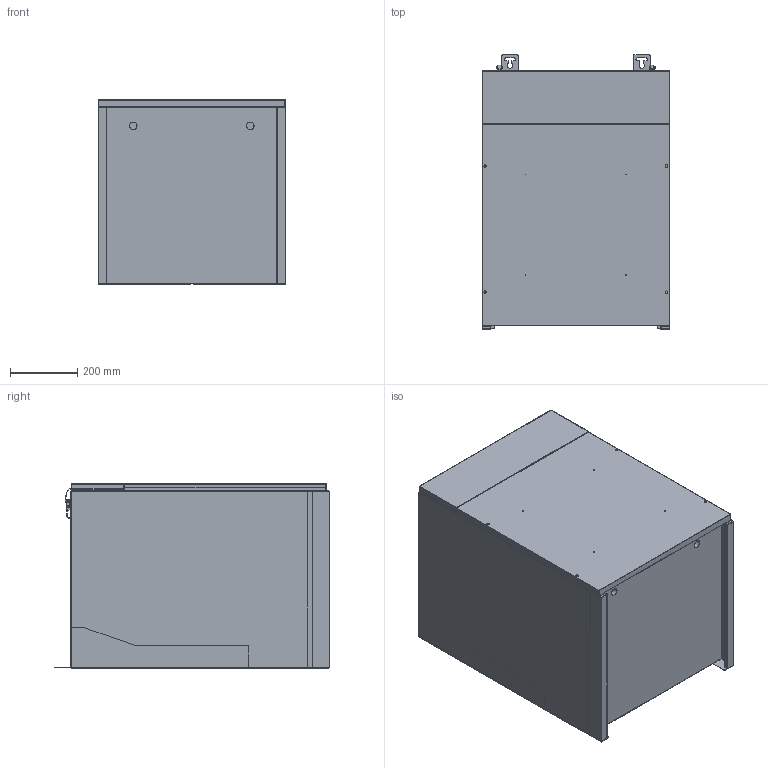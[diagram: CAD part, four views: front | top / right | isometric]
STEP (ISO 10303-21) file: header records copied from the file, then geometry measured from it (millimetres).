
FILE_DESCRIPTION (( 'STEP AP214' ), '1' );
FILE_NAME ('Comfort_350_Stp.STEP', '2022-02-08T08:25:52', ( '' ), ( '' ), 'SwSTEP 2.0', 'SolidWorks 2021', '' );
FILE_SCHEMA (( 'AUTOMOTIVE_DESIGN' ));
Length unit declared in the file: millimetre
Products named in the file (25): 2847_spaendebeslag.STEP; Comfort_250.STEP; 2.08.00.00.3.STEP; Frontplade_GB_Marketing.STEP; 2.08.00.00.4.STEP; 2.08.00.00.2.STEP; RevideretPlade_Styring.STEP; Filterplade2021_GB.STEP; G4_Filter_Dummy.STEP; 2.08.00.00.1.STEP; Bagplade_GB_Marketing.STEP; 2.08.00.00.8.STEP; Hovedpart_Dato_12032021_Part.STEP; 2.08.00.00.1_1.STEP; Sideplade_H_GB.STEP; Sideplade_V_GB.STEP; Bundplade_GB.STEP; 2.08.00.00.8_1.STEP; Bag_part_Dato_12032021_Part.STEP; 2.08.00.00.4_1.STEP; 2.08.00.00.2_1.STEP; CET-01-312_Filterramme.STEP; Comfort_350_Stp; Topplade_GB.STEP; 2.08.00.00.3_1.STEP
Assembly tree (27 placements, depth 5):
  Comfort_350_Stp
    Comfort_250.STEP
      2847_spaendebeslag.STEP  x2
        2.08.00.00.1_1.STEP
          2.08.00.00.1.STEP
        2.08.00.00.2_1.STEP
          2.08.00.00.2.STEP
        2.08.00.00.3_1.STEP
          2.08.00.00.3.STEP
        2.08.00.00.8_1.STEP
          2.08.00.00.8.STEP
        2.08.00.00.4_1.STEP
          2.08.00.00.4.STEP
      Hovedpart_Dato_12032021_Part.STEP
      Bag_part_Dato_12032021_Part.STEP
      Topplade_GB.STEP
      Sideplade_H_GB.STEP
      Sideplade_V_GB.STEP
      Bundplade_GB.STEP
      Bagplade_GB_Marketing.STEP
      Frontplade_GB_Marketing.STEP
      Filterplade2021_GB.STEP
      RevideretPlade_Styring.STEP
      CET-01-312_Filterramme.STEP  x2
      G4_Filter_Dummy.STEP  x2
Bounding box: 559.76 x 820.2 x 550.2 mm (x, y, z)
Volume: 69249311.9 mm3; surface area: 9745495.2 mm2
Topology: 24 solids, 25 shells, 1816 faces, 4722 edges, 2947 vertices
Faces by surface type: plane 1015, cylinder 548, bspline 162, torus 63, cone 20, sphere 8
Entity records: 64807 total; most frequent: CARTESIAN_POINT 24563, ORIENTED_EDGE 8552, DIRECTION 7659, EDGE_CURVE 4276, VECTOR 2771, LINE 2771, VERTEX_POINT 2679, AXIS2_PLACEMENT_3D 2444
